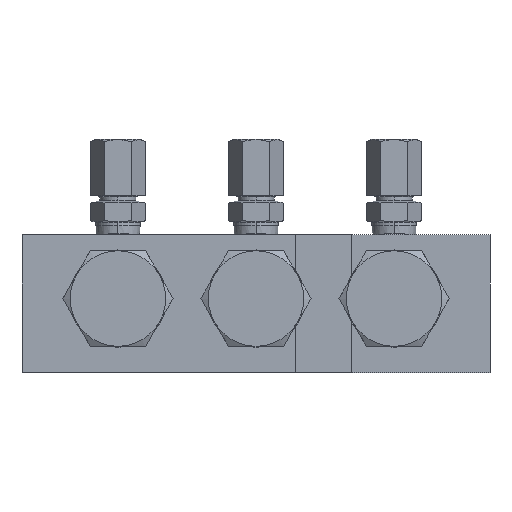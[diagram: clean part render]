
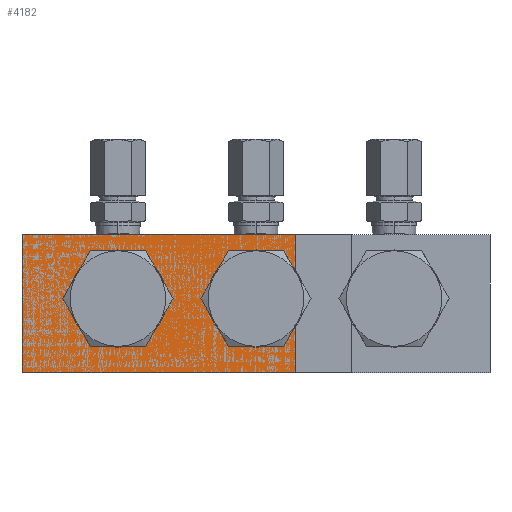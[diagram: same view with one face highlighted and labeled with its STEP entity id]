
A CAD part, front view. The second image highlights one B-rep face of the part: STEP entity #4182.
In plain terms, the highlighted planar face has unit normal (0, -1, 0).
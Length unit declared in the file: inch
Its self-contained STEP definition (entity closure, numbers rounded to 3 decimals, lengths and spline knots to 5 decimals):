
#4059=DIRECTION('',(0.,0.,1.));
#4060=VECTOR('',#4059,1.25);
#4061=CARTESIAN_POINT('',(-0.87008,-1.30413,
-0.67087));
#4062=LINE('',#4061,#4060);
#4083=DIRECTION('',(-1.,0.,0.));
#4084=VECTOR('',#4083,2.48031);
#4085=CARTESIAN_POINT('',(1.61024,-1.30413,
0.57913));
#4086=LINE('',#4085,#4084);
#4087=DIRECTION('',(0.,0.,-1.));
#4088=VECTOR('',#4087,1.25);
#4089=CARTESIAN_POINT('',(1.61024,-1.30413,
0.57913));
#4090=LINE('',#4089,#4088);
#4091=DIRECTION('',(-1.,0.,0.));
#4092=VECTOR('',#4091,2.48031);
#4093=CARTESIAN_POINT('',(1.61024,-1.30413,
-0.67087));
#4094=LINE('',#4093,#4092);
#4096=CARTESIAN_POINT('',(1.61024,-1.30413,
-0.67087));
#4098=VERTEX_POINT('',#4096);
#4099=CARTESIAN_POINT('',(1.61024,-1.30413,
0.57913));
#4100=VERTEX_POINT('',#4099);
#4104=CARTESIAN_POINT('',(-0.87008,-1.30413,
-0.67087));
#4106=VERTEX_POINT('',#4104);
#4107=CARTESIAN_POINT('',(-0.87008,-1.30413,
0.57913));
#4108=VERTEX_POINT('',#4107);
#4170=CARTESIAN_POINT('',(1.61024,-1.30413,
-0.67087));
#4171=DIRECTION('',(0.,-1.,0.));
#4172=DIRECTION('',(0.,0.,1.));
#4173=AXIS2_PLACEMENT_3D('',#4170,#4171,#4172);
#4174=PLANE('',#4173);
#4176=ORIENTED_EDGE('',*,*,#4175,.T.);
#4177=ORIENTED_EDGE('',*,*,#4137,.T.);
#4178=ORIENTED_EDGE('',*,*,#4122,.T.);
#4179=ORIENTED_EDGE('',*,*,#4163,.F.);
#4180=EDGE_LOOP('',(#4176,#4177,#4178,#4179));
#4181=FACE_OUTER_BOUND('',#4180,.F.);
#4182=ADVANCED_FACE('',(#4181),#4174,.T.);
#4122=EDGE_CURVE('',#4106,#4108,#4062,.T.);
#4137=EDGE_CURVE('',#4098,#4106,#4094,.T.);
#4163=EDGE_CURVE('',#4100,#4108,#4086,.T.);
#4175=EDGE_CURVE('',#4100,#4098,#4090,.T.);
